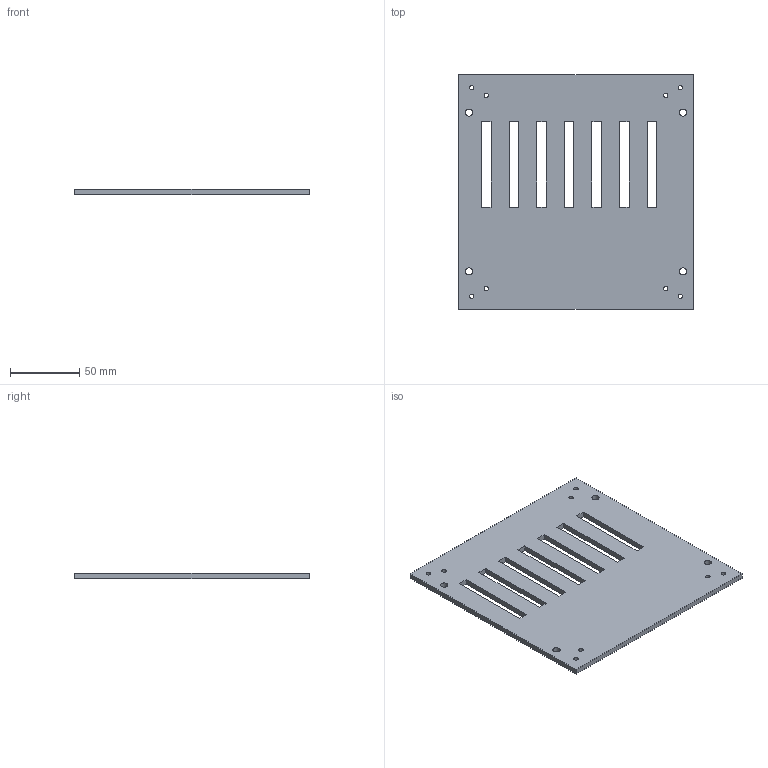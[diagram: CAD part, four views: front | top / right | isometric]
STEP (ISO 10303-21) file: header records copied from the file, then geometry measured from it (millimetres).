
FILE_DESCRIPTION(('Open CASCADE Model'),'2;1');
FILE_NAME('Open CASCADE Shape Model','2026-09-04T19:26:43',('Author'),( 'Open CASCADE'),'Open CASCADE STEP processor 7.9','Open CASCADE 7.9' ,'Unknown');
FILE_SCHEMA(('AUTOMOTIVE_DESIGN { 1 0 10303 214 1 1 1 1 }'));
Length unit declared in the file: millimetre
Products named in the file (1): COMPOUND
Bounding box: 170 x 170 x 4 mm (x, y, z)
Volume: 102850.8 mm3; surface area: 58592.5 mm2
Topology: 1 solids, 1 shells, 46 faces, 132 edges, 88 vertices
Faces by surface type: plane 34, cylinder 12
Full cylindrical faces by diameter (mm): 3.2 x8, 5.2 x4
Entity records: 3206 total; most frequent: CARTESIAN_POINT 643, DIRECTION 402, ORIENTED_EDGE 264, PCURVE 264, DEFINITIONAL_REPRESENTATION 264, LINE 236, VECTOR 236, EDGE_CURVE 132
